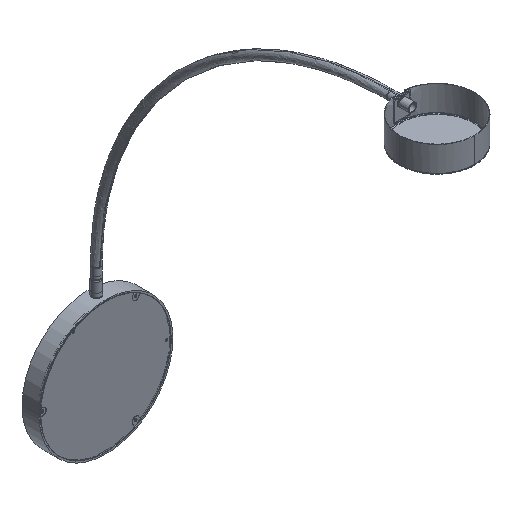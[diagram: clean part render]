
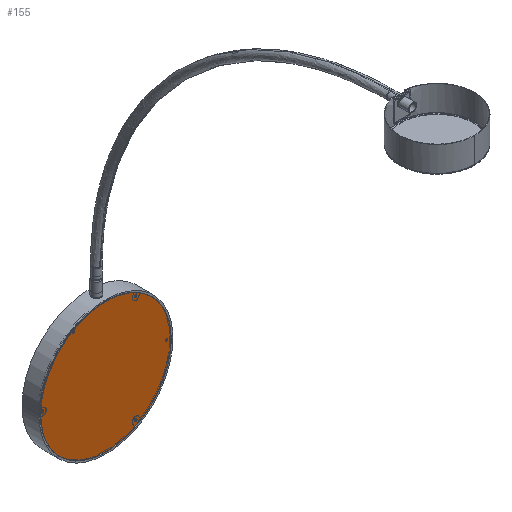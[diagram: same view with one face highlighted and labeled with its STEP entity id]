
A CAD part, isometric view. The second image highlights one B-rep face of the part: STEP entity #155.
In plain terms, the highlighted planar face has unit normal (0, -1, 0).
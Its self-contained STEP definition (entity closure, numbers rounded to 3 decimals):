
#155=ADVANCED_FACE('',(#573),#6191,.T.);
#573=FACE_OUTER_BOUND('',#993,.T.);
#993=EDGE_LOOP('',(#1531,#1532));
#1531=ORIENTED_EDGE('',*,*,#3521,.F.);
#1532=ORIENTED_EDGE('',*,*,#3536,.F.);
#3521=EDGE_CURVE('',#5565,#5566,#5143,.T.);
#3536=EDGE_CURVE('',#5566,#5565,#5151,.T.);
#5143=(
BOUNDED_CURVE()
B_SPLINE_CURVE(2,(#7724,#7725,#7726,#7727,#7728),.UNSPECIFIED.,.F.,.F.)
B_SPLINE_CURVE_WITH_KNOTS((3,2,3),(0.,191.637,383.274),
 .UNSPECIFIED.)
CURVE()
GEOMETRIC_REPRESENTATION_ITEM()
RATIONAL_B_SPLINE_CURVE((1.,0.707,1.,0.707,1.))
REPRESENTATION_ITEM('')
);
#5151=(
BOUNDED_CURVE()
B_SPLINE_CURVE(2,(#7768,#7769,#7770,#7771,#7772),.UNSPECIFIED.,.F.,.F.)
B_SPLINE_CURVE_WITH_KNOTS((3,2,3),(0.,191.637,383.274),
 .UNSPECIFIED.)
CURVE()
GEOMETRIC_REPRESENTATION_ITEM()
RATIONAL_B_SPLINE_CURVE((1.,0.707,1.,0.707,1.))
REPRESENTATION_ITEM('')
);
#5565=VERTEX_POINT('',#7685);
#5566=VERTEX_POINT('',#7686);
#6191=PLANE('',#6583);
#6583=AXIS2_PLACEMENT_3D('',#7615,#6746,$);
#6746=DIRECTION('',(0.,-1.,0.));
#7615=CARTESIAN_POINT('',(-146.4,619.559,-588.3));
#7685=CARTESIAN_POINT('',(122.,619.559,-734.7));
#7686=CARTESIAN_POINT('',(-122.,619.559,-734.7));
#7724=CARTESIAN_POINT('',(122.,619.559,-734.7));
#7725=CARTESIAN_POINT('',(122.,619.559,-856.7));
#7726=CARTESIAN_POINT('',(0.,619.559,-856.7));
#7727=CARTESIAN_POINT('',(-122.,619.559,-856.7));
#7728=CARTESIAN_POINT('',(-122.,619.559,-734.7));
#7768=CARTESIAN_POINT('',(-122.,619.559,-734.7));
#7769=CARTESIAN_POINT('',(-122.,619.559,-612.7));
#7770=CARTESIAN_POINT('',(0.,619.559,-612.7));
#7771=CARTESIAN_POINT('',(122.,619.559,-612.7));
#7772=CARTESIAN_POINT('',(122.,619.559,-734.7));
